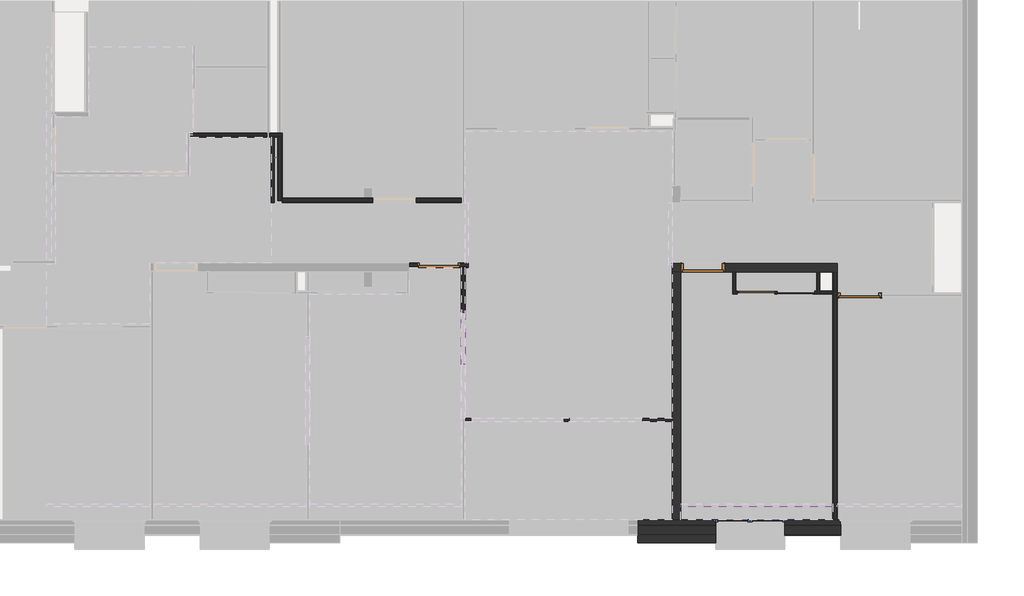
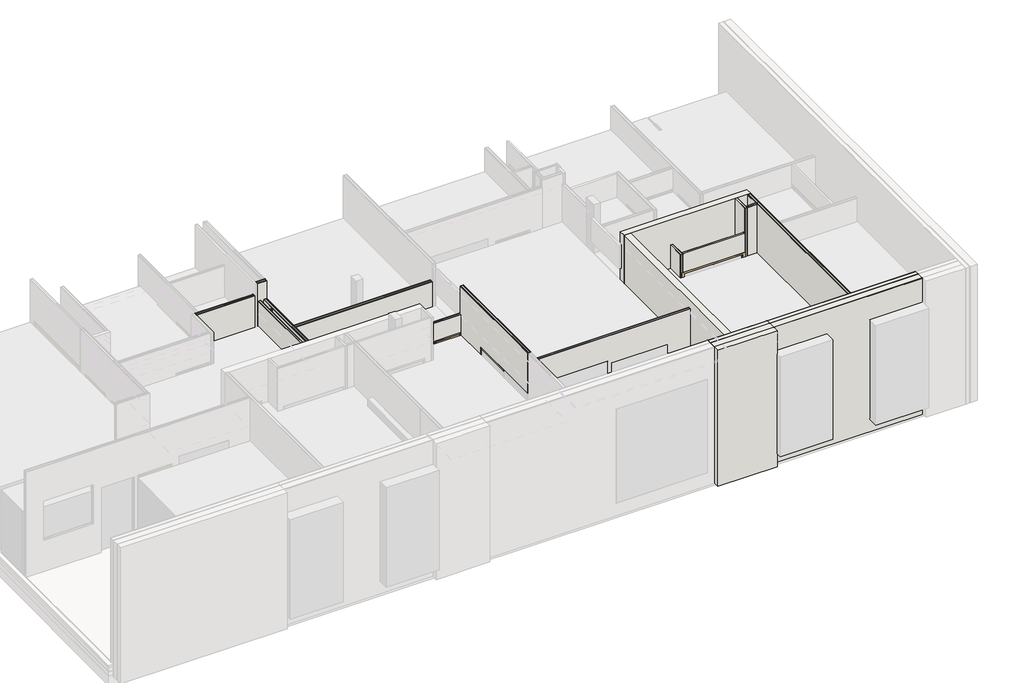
# One storey, part 4 of 8: 20 walls, 4 doors, 4 members, 1 window.
"""IFC4 building model written with IfcOpenShell, lengths in millimetres."""

from ifc_helpers import new_model, si_unit, frame, origin, origin_with_axes, place, context, project, spatial, polyline, outline, extrude, faceted_brep, transform, mapped, element, save
from components import door_440ebcd5, door_922e83f1, door_a5923646, door_b5ea6a65, member_646bbe2c, member_8ddccc91, member_29740ae2, window_4ef66e8a

model = new_model("IFC4")

# Units and contexts
model_context = context("Model", 3, world=origin())
ifc_project = project(units=[si_unit("LENGTHUNIT", "METRE", prefix="MILLI")], contexts=[model_context])

# Site, building, storey
site = spatial("IfcSite", under=ifc_project)
building = spatial("IfcBuilding", under=site)
storey = spatial("IfcBuildingStorey", under=building, Name="0 Mairie RDC 0.00", Elevation=0.0)

# Doors
placement = place(None, origin())
door_shape = door_440ebcd5(model_context)
element("IfcDoor", 1, ObjectType="Portes - Int. Simple - PP (0.89m x 2.04m)", at=placement, inside=storey, context=model_context, shape_type="MappedRepresentation", body=[
    mapped(door_shape, transform((-4782.496702, -8238.2685444, 0.0), x_axis=(1.0, 0.0, 0.0), y_axis=(0.0, 1.0, 0.0), z_axis=(0.0, 0.0, 1.0))),
])
door_2_shape = door_922e83f1(model_context)
element("IfcDoor", 2, ObjectType="Portes - Int. Simple - PP (0.89m x 2.04m) (1)", at=placement, inside=storey, context=model_context, shape_type="MappedRepresentation", body=[
    mapped(door_2_shape, transform((-1161.3922233, -8831.1038426, 0.0), x_axis=(1.0, 0.0, 0.0), y_axis=(0.0, 1.0, 0.0), z_axis=(0.0, 0.0, 1.0))),
])
door_3_shape = door_a5923646(model_context)
element("IfcDoor", 3, ObjectType="Portes - Int. Simple - PP (0.89m x 2.04m) (2)", at=placement, inside=storey, context=model_context, shape_type="MappedRepresentation", body=[
    mapped(door_3_shape, transform((-10819.6455383, -8132.7867091, 0.0), x_axis=(1.0, 0.0, 0.0), y_axis=(0.0, 1.0, 0.0), z_axis=(0.0, 0.0, 1.0))),
])
door_4_shape = door_b5ea6a65(model_context)
element("IfcDoor", 4, ObjectType="Portes - Placard coulissante - 2 panneaux - Placard coulissante - 2 panneaux 1.80", at=placement, inside=storey, context=model_context, shape_type="MappedRepresentation", body=[
    mapped(door_4_shape, transform((-3421.0406291, -8751.7570094, 0.0), x_axis=(1.0, 0.0, 0.0), y_axis=(0.0, 1.0, 0.0), z_axis=(0.0, 0.0, 1.0))),
])

# Members
member_shape = member_646bbe2c(model_context)
element("IfcMember", 5, ObjectType="Meneaux de murs-rideaux - Meneau rectangulaire - 10 x 25mm (2)", at=placement, inside=storey, context=model_context, shape_type="MappedRepresentation", body=[
    mapped(member_shape, transform((-9754.6455383, -9128.5833837, 1125.0), x_axis=(0.0, 1.0, 0.0), y_axis=(1.0, 0.0, 0.0), z_axis=(0.0, 0.0, -1.0))),
])
element("IfcMember", 6, ObjectType="Meneaux de murs-rideaux - Meneau rectangulaire - 10 x 25mm (3)", at=placement, inside=storey, context=model_context, shape_type="MappedRepresentation", body=[
    mapped(member_shape, transform((-9754.6455383, -9128.5833837, 50.0), x_axis=(0.0, 1.0, 0.0), y_axis=(1.0, 0.0, 0.0), z_axis=(0.0, 0.0, -1.0))),
])
member_2_shape = member_8ddccc91(model_context)
element("IfcMember", 7, ObjectType="Meneaux de murs-rideaux - Meneau rectangulaire - 10 x 25mm (6)", at=placement, inside=storey, context=model_context, shape_type="MappedRepresentation", body=[
    mapped(member_2_shape, transform((-9754.6455383, -9178.5833837, 1125.0), x_axis=(0.0, 0.0, 1.0), y_axis=(1.0, 0.0, 0.0), z_axis=(0.0, 1.0, 0.0))),
])
member_3_shape = member_29740ae2(model_context)
element("IfcMember", 8, ObjectType="Meneaux de murs-rideaux - Meneau rectangulaire - 10 x 25mm (10)", at=placement, inside=storey, context=model_context, shape_type="MappedRepresentation", body=[
    mapped(member_3_shape, transform((-9754.6455383, -9128.5833837, 2250.0), x_axis=(0.0, 0.0, 1.0), y_axis=(1.0, 0.0, 0.0), z_axis=(0.0, 1.0, 0.0))),
])

# Walls
element("IfcWall", 9, ObjectType="Murs - Mur de base - A cloison placostil 98 sèche", at=placement, inside=storey, context=model_context, shape_type="SweptSolid", body=[
    extrude(outline(polyline([(2800.0, -9808.4471465), (2800.0, -13946.7760862), (0.0, -13946.7760862), (0.0, -11848.5461708), (2075.0, -11848.5461708), (2075.0, -10848.5461708), (0.0, -10848.5461708), (0.0, -9808.4471465), (2800.0, -9808.4471465)])), frame((0.0, -6632.5340392, 0.0), z_axis=(0.0, 1.0, 0.0), x_axis=(0.0, 0.0, 1.0)), (0.0, 0.0, 1.0), 12.5),
    extrude(outline(polyline([(2800.0, -9808.4471465), (2800.0, -13946.7760862), (0.0, -13946.7760862), (0.0, -11848.5461708), (2075.0, -11848.5461708), (2075.0, -10848.5461708), (0.0, -10848.5461708), (0.0, -9808.4471465), (2800.0, -9808.4471465)])), frame((0.0, -6620.0340392, 0.0), z_axis=(0.0, 1.0, 0.0), x_axis=(0.0, 0.0, 1.0)), (0.0, 0.0, 1.0), 12.5),
    extrude(outline(polyline([(2800.0, -9808.4471465), (2800.0, -13946.7760862), (0.0, -13946.7760862), (0.0, -11848.5461708), (2075.0, -11848.5461708), (2075.0, -10848.5461708), (0.0, -10848.5461708), (0.0, -9808.4471465), (2800.0, -9808.4471465)])), frame((0.0, -6607.5340392, 0.0), z_axis=(0.0, 1.0, 0.0), x_axis=(0.0, 0.0, 1.0)), (0.0, 0.0, 1.0), 50.0),
    extrude(outline(polyline([(2800.0, -9808.4471465), (2800.0, -13946.7760862), (0.0, -13946.7760862), (0.0, -11848.5461708), (2075.0, -11848.5461708), (2075.0, -10848.5461708), (0.0, -10848.5461708), (0.0, -9808.4471465), (2800.0, -9808.4471465)])), frame((0.0, -6557.5340392, 0.0), z_axis=(0.0, 1.0, 0.0), x_axis=(0.0, 0.0, 1.0)), (0.0, 0.0, 1.0), 12.5),
    extrude(outline(polyline([(2800.0, -9808.4471465), (2800.0, -13946.7760862), (0.0, -13946.7760862), (0.0, -11848.5461708), (2075.0, -11848.5461708), (2075.0, -10848.5461708), (0.0, -10848.5461708), (0.0, -9808.4471465), (2800.0, -9808.4471465)])), frame((0.0, -6545.0340392, 0.0), z_axis=(0.0, 1.0, 0.0), x_axis=(0.0, 0.0, 1.0)), (0.0, 0.0, 1.0), 12.5),
])
element("IfcWall", 10, ObjectType="Murs - Mur de base - A cloison placostil 98 sèche", at=placement, inside=storey, context=model_context, shape_type="SweptSolid", body=[
    extrude(outline(polyline([(-1206.3922233, -13978.5662223), (-1206.3922233, -8681.7570094), (-1193.8922233, -8681.7570094), (-1193.8922233, -13978.5662223), (-1206.3922233, -13978.5662223)])), origin_with_axes(), (0.0, 0.0, 1.0), 3550.0),
    extrude(outline(polyline([(-1193.8922233, -13978.5662223), (-1193.8922233, -8681.7570094), (-1181.3922233, -8681.7570094), (-1181.3922233, -13978.5662223), (-1193.8922233, -13978.5662223)])), origin_with_axes(), (0.0, 0.0, 1.0), 3550.0),
    extrude(outline(polyline([(-1181.3922233, -13978.5662223), (-1181.3922233, -8681.7570094), (-1131.3922233, -8681.7570094), (-1131.3922233, -13978.5662223), (-1181.3922233, -13978.5662223)])), origin_with_axes(), (0.0, 0.0, 1.0), 3550.0),
    extrude(outline(polyline([(-1131.3922233, -13978.5662223), (-1131.3922233, -8681.7570094), (-1118.8922233, -8681.7570094), (-1118.8922233, -13978.5662223), (-1131.3922233, -13978.5662223)])), origin_with_axes(), (0.0, 0.0, 1.0), 3550.0),
    extrude(outline(polyline([(-1118.8922233, -13978.5662223), (-1118.8922233, -8681.7570094), (-1106.3922233, -8681.7570094), (-1106.3922233, -13978.5662223), (-1118.8922233, -13978.5662223)])), origin_with_axes(), (0.0, 0.0, 1.0), 3550.0),
])
element("IfcWall", 11, ObjectType="Murs - Mur de base - A cloison placostil 72 sèche", at=placement, inside=storey, context=model_context, shape_type="SweptSolid", body=[
    extrude(outline(polyline([(-3526.0406291, -8751.7570094), (-3526.0406291, -8238.2685444), (-3516.0406291, -8238.2685444), (-3516.0406291, -8751.7570094), (-3526.0406291, -8751.7570094)])), origin_with_axes(), (0.0, 0.0, 1.0), 2750.0),
    extrude(outline(polyline([(-3516.0406291, -8751.7570094), (-3516.0406291, -8238.2685444), (-3466.0406291, -8238.2685444), (-3466.0406291, -8751.7570094), (-3516.0406291, -8751.7570094)])), origin_with_axes(), (0.0, 0.0, 1.0), 2750.0),
    extrude(outline(polyline([(-3466.0406291, -8751.7570094), (-3466.0406291, -8238.2685444), (-3456.0406291, -8238.2685444), (-3456.0406291, -8751.7570094), (-3466.0406291, -8751.7570094)])), origin_with_axes(), (0.0, 0.0, 1.0), 2750.0),
])
element("IfcWall", 12, ObjectType="Murs - Mur de base - A cloison placostil 72 sèche", at=placement, inside=storey, context=model_context, shape_type="SweptSolid", body=[
    extrude(outline(polyline([(2750.0, -1576.0769125), (2750.0, -3456.0406291), (0.0, -3456.0406291), (0.0, -3421.0406291), (2100.0, -3421.0406291), (2100.0, -1621.0406291), (0.0, -1621.0406291), (0.0, -1576.0769125), (2750.0, -1576.0769125)])), frame((0.0, -8751.7570094, 0.0), z_axis=(0.0, 1.0, 0.0), x_axis=(0.0, 0.0, 1.0)), (0.0, 0.0, 1.0), 10.0),
    extrude(outline(polyline([(2750.0, -1576.0769125), (2750.0, -3456.0406291), (0.0, -3456.0406291), (0.0, -3421.0406291), (2100.0, -3421.0406291), (2100.0, -1621.0406291), (0.0, -1621.0406291), (0.0, -1576.0769125), (2750.0, -1576.0769125)])), frame((0.0, -8741.7570094, 0.0), z_axis=(0.0, 1.0, 0.0), x_axis=(0.0, 0.0, 1.0)), (0.0, 0.0, 1.0), 50.0),
    extrude(outline(polyline([(2750.0, -1576.0769125), (2750.0, -3456.0406291), (0.0, -3456.0406291), (0.0, -3421.0406291), (2100.0, -3421.0406291), (2100.0, -1621.0406291), (0.0, -1621.0406291), (0.0, -1576.0769125), (2750.0, -1576.0769125)])), frame((0.0, -8691.7570094, 0.0), z_axis=(0.0, 1.0, 0.0), x_axis=(0.0, 0.0, 1.0)), (0.0, 0.0, 1.0), 10.0),
])
element("IfcWall", 13, ObjectType="Murs - Mur de base - A cloison placostil 72 sèche", at=placement, inside=storey, context=model_context, shape_type="SweptSolid", body=[
    extrude(outline(polyline([(-1576.0769125, -8751.7570094), (-1576.0769125, -8238.2685444), (-1566.0769125, -8238.2685444), (-1566.0769125, -8751.7570094), (-1576.0769125, -8751.7570094)])), origin_with_axes(), (0.0, 0.0, 1.0), 3550.0),
    extrude(outline(polyline([(-1566.0769125, -8751.7570094), (-1566.0769125, -8238.2685444), (-1516.0769125, -8238.2685444), (-1516.0769125, -8751.7570094), (-1566.0769125, -8751.7570094)])), origin_with_axes(), (0.0, 0.0, 1.0), 3550.0),
    extrude(outline(polyline([(-1516.0769125, -8751.7570094), (-1516.0769125, -8238.2685444), (-1506.0769125, -8238.2685444), (-1506.0769125, -8751.7570094), (-1516.0769125, -8751.7570094)])), origin_with_axes(), (0.0, 0.0, 1.0), 3550.0),
])
element("IfcWall", 14, ObjectType="Murs - Mur de base - A cloison placostil 72 sèche", at=placement, inside=storey, context=model_context, shape_type="SweptSolid", body=[
    extrude(outline(polyline([(3300.0, -4927.496702), (3300.0, -9704.6455383), (0.0, -9704.6455383), (0.0, -9584.6455383), (2500.0, -9584.6455383), (2500.0, -7424.6455383), (0.0, -7424.6455383), (0.0, -7305.3883155), (2400.0, -7305.3883155), (2400.0, -5605.3883155), (0.0, -5605.3883155), (0.0, -4927.496702), (3300.0, -4927.496702)])), frame((0.0, -11698.5833837, 0.0), z_axis=(0.0, 1.0, 0.0), x_axis=(0.0, 0.0, 1.0)), (0.0, 0.0, 1.0), 10.0),
    extrude(outline(polyline([(3300.0, -4927.496702), (3300.0, -9704.6455383), (0.0, -9704.6455383), (0.0, -9584.6455383), (2500.0, -9584.6455383), (2500.0, -7424.6455383), (0.0, -7424.6455383), (0.0, -7305.3883155), (2400.0, -7305.3883155), (2400.0, -5605.3883155), (0.0, -5605.3883155), (0.0, -4927.496702), (3300.0, -4927.496702)])), frame((0.0, -11688.5833837, 0.0), z_axis=(0.0, 1.0, 0.0), x_axis=(0.0, 0.0, 1.0)), (0.0, 0.0, 1.0), 50.0),
    extrude(outline(polyline([(3300.0, -4927.496702), (3300.0, -9704.6455383), (0.0, -9704.6455383), (0.0, -9584.6455383), (2500.0, -9584.6455383), (2500.0, -7424.6455383), (0.0, -7424.6455383), (0.0, -7305.3883155), (2400.0, -7305.3883155), (2400.0, -5605.3883155), (0.0, -5605.3883155), (0.0, -4927.496702), (3300.0, -4927.496702)])), frame((0.0, -11638.5833837, 0.0), z_axis=(0.0, 1.0, 0.0), x_axis=(0.0, 0.0, 1.0)), (0.0, 0.0, 1.0), 10.0),
])
element("IfcWall", 15, ObjectType="Murs - Mur de base - A cloison placostil 98 sèche", at=placement, inside=storey, context=model_context, shape_type="SweptSolid", body=[
    extrude(outline(polyline([(2650.0, -9638.4471465), (2650.0, -11003.1086334), (0.0, -11003.1086334), (0.0, -10819.6455383), (2075.0, -10819.6455383), (2075.0, -9819.6455383), (0.0, -9819.6455383), (0.0, -9638.4471465), (2650.0, -9638.4471465)])), frame((0.0, -8132.7867091, 0.0), z_axis=(0.0, 1.0, 0.0), x_axis=(0.0, 0.0, 1.0)), (0.0, 0.0, 1.0), 12.5),
    extrude(outline(polyline([(2650.0, -9638.4471465), (2650.0, -11003.1086334), (0.0, -11003.1086334), (0.0, -10819.6455383), (2075.0, -10819.6455383), (2075.0, -9819.6455383), (0.0, -9819.6455383), (0.0, -9638.4471465), (2650.0, -9638.4471465)])), frame((0.0, -8120.2867091, 0.0), z_axis=(0.0, 1.0, 0.0), x_axis=(0.0, 0.0, 1.0)), (0.0, 0.0, 1.0), 12.5),
    extrude(outline(polyline([(2650.0, -9638.4471465), (2650.0, -11003.1086334), (0.0, -11003.1086334), (0.0, -10819.6455383), (2075.0, -10819.6455383), (2075.0, -9819.6455383), (0.0, -9819.6455383), (0.0, -9638.4471465), (2650.0, -9638.4471465)])), frame((0.0, -8107.7867091, 0.0), z_axis=(0.0, 1.0, 0.0), x_axis=(0.0, 0.0, 1.0)), (0.0, 0.0, 1.0), 50.0),
    extrude(outline(polyline([(2650.0, -9638.4471465), (2650.0, -11003.1086334), (0.0, -11003.1086334), (0.0, -10819.6455383), (2075.0, -10819.6455383), (2075.0, -9819.6455383), (0.0, -9819.6455383), (0.0, -9638.4471465), (2650.0, -9638.4471465)])), frame((0.0, -8057.7867091, 0.0), z_axis=(0.0, 1.0, 0.0), x_axis=(0.0, 0.0, 1.0)), (0.0, 0.0, 1.0), 12.5),
    extrude(outline(polyline([(2650.0, -9638.4471465), (2650.0, -11003.1086334), (0.0, -11003.1086334), (0.0, -10819.6455383), (2075.0, -10819.6455383), (2075.0, -9819.6455383), (0.0, -9819.6455383), (0.0, -9638.4471465), (2650.0, -9638.4471465)])), frame((0.0, -8045.2867091, 0.0), z_axis=(0.0, 1.0, 0.0), x_axis=(0.0, 0.0, 1.0)), (0.0, 0.0, 1.0), 12.5),
])
element("IfcWall", 16, ObjectType="Murs - Mur de base - A Ext. Voile BA 20", at=placement, inside=storey, context=model_context, shape_type="SweptSolid", body=[
    extrude(outline(polyline([(3550.0, -1102.2052719), (3550.0, -4927.496702), (-180.0, -4927.496702), (-180.0, -1102.2052719), (3550.0, -1102.2052719)]), holes=[polyline([(2075.0, -3712.496702), (0.0, -3712.496702), (0.0, -4712.496702), (2075.0, -4712.496702), (2075.0, -3712.496702)])]), frame((0.0, -8238.2685444, 0.0), z_axis=(0.0, 1.0, 0.0), x_axis=(0.0, 0.0, 1.0)), (0.0, 0.0, 1.0), 200.0),
])
element("IfcWall", 17, ObjectType="Murs - Mur de base - A Ext. Voile BA 20", at=placement, inside=storey, context=model_context, shape_type="SweptSolid", body=[
    extrude(outline(polyline([(-4727.496702, -13978.5662223), (-4927.496702, -13978.5662223), (-4927.496702, -8238.2685444), (-4727.496702, -8238.2685444), (-4727.496702, -13978.5662223)])), frame((0.0, 0.0, -180.0), z_axis=(0.0, 0.0, 1.0), x_axis=(1.0, 0.0, 0.0)), (0.0, 0.0, 1.0), 3730.0),
])
element("IfcWall", 18, ObjectType="Murs - Mur de base - A Enduit 2 + Béton 20 + vide 1 +  Doublage 13", at=placement, inside=storey, context=model_context, shape_type="Brep", body=[
    faceted_brep([(-3920.1625689, -14338.5662223, 3950.0), (577.5549073, -14338.5662223, 3950.0), (577.5549073, -14318.5662223, 3950.0), (-3920.1625689, -14318.5662223, 3950.0), (-3920.1625689, -14338.5662223, -400.0), (-3920.1625689, -14318.5662223, -400.0), (577.5549073, -14318.5662223, -400.0), (577.5549073, -14338.5662223, -400.0), (-3920.1625689, -14338.5662223, 3185.0), (-2320.1625689, -14338.5662223, 3185.0), (-2320.1625689, -14338.5662223, 5.5708141), (-3920.1625689, -14338.5662223, 5.5708141), (577.5549073, -14338.5662223, 5.5708141), (-1022.3843993, -14338.5662223, 5.5708141), (-1022.3843993, -14338.5662223, 3185.0), (577.5549073, -14338.5662223, 3185.0), (577.5549073, -14318.5662223, 3185.0), (577.5549073, -14318.5662223, 7.6728988), (-1022.3843993, -14318.5662223, 3185.0), (-1022.3843993, -14318.5662223, 7.6728988), (-3920.1625689, -14318.5662223, 7.6728988), (-2320.1625689, -14318.5662223, 7.6728988), (-2320.1625689, -14318.5662223, 3185.0), (-3920.1625689, -14318.5662223, 3185.0)], [[[0, 1, 2, 3]], [[4, 5, 6, 7]], [[1, 0, 8, 9, 10, 11, 4, 7, 12, 13, 14, 15]], [[2, 1, 15, 16]], [[7, 6, 17, 12]], [[3, 2, 16, 18, 19, 17, 6, 5, 20, 21, 22, 23]], [[0, 3, 23, 8]], [[5, 4, 11, 20]], [[10, 9, 22, 21]], [[9, 8, 23, 22]], [[11, 10, 21, 20]], [[14, 18, 16, 15]], [[19, 13, 12, 17]], [[18, 14, 13, 19]]]),
    faceted_brep([(-3920.1625689, -14318.5662223, 3950.0), (577.5549073, -14318.5662223, 3950.0), (577.5549073, -14118.5662223, 3950.0), (-3920.1625689, -14118.5662223, 3950.0), (-3920.1625689, -14318.5662223, -400.0), (-3920.1625689, -14118.5662223, -400.0), (577.5549073, -14118.5662223, -400.0), (577.5549073, -14318.5662223, -400.0), (-3920.1625689, -14318.5662223, 3185.0), (-2320.1625689, -14318.5662223, 3185.0), (-2320.1625689, -14318.5662223, 7.6728988), (-3920.1625689, -14318.5662223, 7.6728988), (577.5549073, -14318.5662223, 7.6728988), (-1022.3843993, -14318.5662223, 7.6728988), (-1022.3843993, -14318.5662223, 3185.0), (577.5549073, -14318.5662223, 3185.0), (577.5549073, -14118.5662223, 3185.0), (577.5549073, -14118.5662223, 28.6937459), (-1022.3843993, -14118.5662223, 3185.0), (-1022.3843993, -14118.5662223, 28.6937459), (-3920.1625689, -14118.5662223, 28.6937459), (-2320.1625689, -14118.5662223, 28.6937459), (-2320.1625689, -14118.5662223, 3185.0), (-3920.1625689, -14118.5662223, 3185.0)], [[[0, 1, 2, 3]], [[4, 5, 6, 7]], [[1, 0, 8, 9, 10, 11, 4, 7, 12, 13, 14, 15]], [[2, 1, 15, 16]], [[7, 6, 17, 12]], [[3, 2, 16, 18, 19, 17, 6, 5, 20, 21, 22, 23]], [[0, 3, 23, 8]], [[5, 4, 11, 20]], [[10, 9, 22, 21]], [[9, 8, 23, 22]], [[11, 10, 21, 20]], [[14, 18, 16, 15]], [[19, 13, 12, 17]], [[18, 14, 13, 19]]]),
    faceted_brep([(-3920.1625689, -14118.5662223, 3950.0), (577.5549073, -14118.5662223, 3950.0), (577.5549073, -14108.5662223, 3950.0), (-3920.1625689, -14108.5662223, 3950.0), (-3920.1625689, -14118.5662223, -400.0), (-3920.1625689, -14108.5662223, -400.0), (577.5549073, -14108.5662223, -400.0), (577.5549073, -14118.5662223, -400.0), (-3920.1625689, -14118.5662223, 3185.0), (-2320.1625689, -14118.5662223, 3185.0), (-2320.1625689, -14118.5662223, 28.6937459), (-3920.1625689, -14118.5662223, 28.6937459), (577.5549073, -14118.5662223, 28.6937459), (-1022.3843993, -14118.5662223, 28.6937459), (-1022.3843993, -14118.5662223, 3185.0), (577.5549073, -14118.5662223, 3185.0), (577.5549073, -14108.5662223, 3185.0), (577.5549073, -14108.5662223, 29.7447882), (-1022.3843993, -14108.5662223, 3185.0), (-1022.3843993, -14108.5662223, 29.7447882), (-3920.1625689, -14108.5662223, 29.7447882), (-2320.1625689, -14108.5662223, 29.7447882), (-2320.1625689, -14108.5662223, 3185.0), (-3920.1625689, -14108.5662223, 3185.0)], [[[0, 1, 2, 3]], [[4, 5, 6, 7]], [[1, 0, 8, 9, 10, 11, 4, 7, 12, 13, 14, 15]], [[2, 1, 15, 16]], [[7, 6, 17, 12]], [[3, 2, 16, 18, 19, 17, 6, 5, 20, 21, 22, 23]], [[0, 3, 23, 8]], [[5, 4, 11, 20]], [[10, 9, 22, 21]], [[9, 8, 23, 22]], [[11, 10, 21, 20]], [[14, 18, 16, 15]], [[19, 13, 12, 17]], [[18, 14, 13, 19]]]),
    faceted_brep([(-3920.1625689, -14108.5662223, 3950.0), (577.5549073, -14108.5662223, 3950.0), (577.5549073, -13988.5662223, 3950.0), (-3920.1625689, -13988.5662223, 3950.0), (-3920.1625689, -14108.5662223, -400.0), (-3920.1625689, -13988.5662223, -400.0), (577.5549073, -13988.5662223, -400.0), (577.5549073, -14108.5662223, -400.0), (-3920.1625689, -14108.5662223, 3185.0), (-2320.1625689, -14108.5662223, 3185.0), (-2320.1625689, -14108.5662223, 29.7447882), (-3920.1625689, -14108.5662223, 29.7447882), (577.5549073, -14108.5662223, 29.7447882), (-1022.1343993, -14108.5662223, 29.7447882), (-1022.1343993, -14108.5662223, 3185.0), (577.5549073, -14108.5662223, 3185.0), (577.5549073, -14078.5662223, 3185.0), (577.5549073, -14078.5662223, 3195.0), (577.5549073, -14028.5662223, 3195.0), (577.5549073, -14028.5662223, 3235.0), (577.5549073, -13988.5662223, 3235.0), (577.5549073, -13988.5662223, 35.0), (577.5549073, -14058.5662223, 35.0), (-1072.1343993, -13988.5662223, 3235.0), (-1072.1343993, -13988.5662223, 35.0), (-3920.1625689, -13988.5662223, 35.0), (-2270.1625689, -13988.5662223, 35.0), (-2270.1625689, -13988.5662223, 3235.0), (-3920.1625689, -13988.5662223, 3235.0), (-3920.1625689, -14028.5662223, 3235.0), (-3920.1625689, -14028.5662223, 3195.0), (-3920.1625689, -14078.5662223, 3195.0), (-3920.1625689, -14078.5662223, 3185.0), (-3920.1625689, -14058.5662223, 35.0), (-2320.1625689, -14078.5662223, 3185.0), (-2320.1625689, -14078.5662223, 35.0), (-2320.1625689, -14058.5662223, 35.0), (-2310.1625689, -14078.5662223, 35.0), (-2310.1625689, -14028.5662223, 35.0), (-2270.1625689, -14028.5662223, 35.0), (-2270.1625689, -14028.5662223, 3235.0), (-2310.1625689, -14028.5662223, 3195.0), (-2310.1625689, -14078.5662223, 3195.0), (-1022.1343993, -14078.5662223, 35.0), (-1022.1343993, -14058.5662223, 35.0), (-1072.1343993, -14028.5662223, 35.0), (-1032.1343993, -14028.5662223, 35.0), (-1032.1343993, -14078.5662223, 35.0), (-1022.1343993, -14078.5662223, 3185.0), (-1072.1343993, -14028.5662223, 3235.0), (-1032.1343993, -14028.5662223, 3195.0), (-1032.1343993, -14078.5662223, 3195.0)], [[[0, 1, 2, 3]], [[4, 5, 6, 7]], [[1, 0, 8, 9, 10, 11, 4, 7, 12, 13, 14, 15]], [[2, 1, 15, 16, 17, 18, 19, 20]], [[7, 6, 21, 22, 12]], [[3, 2, 20, 23, 24, 21, 6, 5, 25, 26, 27, 28]], [[0, 3, 28, 29, 30, 31, 32, 8]], [[5, 4, 11, 33, 25]], [[10, 9, 34, 35, 36]], [[26, 25, 33, 36, 35, 37, 38, 39]], [[9, 8, 32, 34]], [[11, 10, 36, 33]], [[27, 26, 39, 40]], [[30, 29, 40, 39, 38, 41]], [[38, 37, 42, 41]], [[32, 31, 42, 37, 35, 34]], [[28, 27, 40, 29]], [[31, 30, 41, 42]], [[43, 44, 22, 21, 24, 45, 46, 47]], [[14, 48, 16, 15]], [[22, 44, 13, 12]], [[46, 45, 49, 19, 18, 50]], [[43, 47, 51, 17, 16, 48]], [[19, 49, 23, 20]], [[51, 50, 18, 17]], [[49, 45, 24, 23]], [[47, 46, 50, 51]], [[44, 43, 48, 14, 13]]]),
    faceted_brep([(-3920.1625689, -13988.5662223, 3950.0), (577.5549073, -13988.5662223, 3950.0), (577.5549073, -13978.5662223, 3950.0), (-3920.1625689, -13978.5662223, 3950.0), (-3920.1625689, -13988.5662223, -400.0), (-3920.1625689, -13978.5662223, -400.0), (577.5549073, -13978.5662223, -400.0), (577.5549073, -13988.5662223, -400.0), (-3920.1625689, -13988.5662223, 3235.0), (-2270.1625689, -13988.5662223, 3235.0), (-2270.1625689, -13988.5662223, 35.0), (-3920.1625689, -13988.5662223, 35.0), (577.5549073, -13988.5662223, 35.0), (-1072.3843993, -13988.5662223, 35.0), (-1072.3843993, -13988.5662223, 3235.0), (577.5549073, -13988.5662223, 3235.0), (577.5549073, -13978.5662223, 3235.0), (577.5549073, -13978.5662223, 35.0), (-1072.3843993, -13978.5662223, 3235.0), (-1072.3843993, -13978.5662223, 35.0), (-1022.3843993, -13978.5662223, 35.0), (-3920.1625689, -13978.5662223, 35.0), (-2320.1625689, -13978.5662223, 35.0), (-2270.1625689, -13978.5662223, 35.0), (-2270.1625689, -13978.5662223, 3235.0), (-3920.1625689, -13978.5662223, 3235.0)], [[[0, 1, 2, 3]], [[4, 5, 6, 7]], [[1, 0, 8, 9, 10, 11, 4, 7, 12, 13, 14, 15]], [[2, 1, 15, 16]], [[7, 6, 17, 12]], [[3, 2, 16, 18, 19, 20, 17, 6, 5, 21, 22, 23, 24, 25]], [[0, 3, 25, 8]], [[5, 4, 11, 21]], [[11, 10, 23, 22, 21]], [[10, 9, 24, 23]], [[9, 8, 25, 24]], [[19, 13, 12, 17, 20]], [[14, 18, 16, 15]], [[13, 19, 18, 14]]]),
])
element("IfcWall", 19, ObjectType="Murs - Mur de base - A Parement pierre 19 + Béton 20 + vide 1 +   Doublage 14", at=placement, inside=storey, context=model_context, shape_type="SolidModel", body=[
    faceted_brep([(-5718.4606208, -14508.5662223, 3950.0), (-3920.1625689, -14508.5662223, 3950.0), (-3920.1625689, -14318.5662223, 3950.0), (-5718.4606208, -14318.5662223, 3950.0), (-5718.4606208, -14508.5662223, -400.0), (-5718.4606208, -14318.5662223, -400.0), (-3920.1625689, -14318.5662223, -400.0), (-3920.1625689, -14508.5662223, -400.0), (-3920.1625689, -14508.5662223, 0.0), (-3920.1625689, -14508.5662223, 3185.0), (-3920.1625689, -14318.5662223, 7.6728988), (-3920.1625689, -14318.5662223, 3185.0)], [[[0, 1, 2, 3]], [[4, 5, 6, 7]], [[1, 0, 4, 7, 8, 9]], [[2, 1, 9, 8, 7, 6, 10, 11]], [[3, 2, 11, 10, 6, 5]], [[0, 3, 5, 4]]]),
    faceted_brep([(-5718.4606208, -14318.5662223, 3950.0), (-3920.1625689, -14318.5662223, 3950.0), (-3920.1625689, -14118.5662223, 3950.0), (-5718.4606208, -14118.5662223, 3950.0), (-5718.4606208, -14318.5662223, -400.0), (-5718.4606208, -14118.5662223, -400.0), (-3920.1625689, -14118.5662223, -400.0), (-3920.1625689, -14318.5662223, -400.0), (-3920.1625689, -14318.5662223, 7.6728988), (-3920.1625689, -14318.5662223, 3185.0), (-3920.1625689, -14118.5662223, 28.6937459), (-3920.1625689, -14118.5662223, 3185.0)], [[[0, 1, 2, 3]], [[4, 5, 6, 7]], [[1, 0, 4, 7, 8, 9]], [[2, 1, 9, 8, 7, 6, 10, 11]], [[3, 2, 11, 10, 6, 5]], [[0, 3, 5, 4]]]),
    faceted_brep([(-5718.4606208, -14118.5662223, 3950.0), (-3920.1625689, -14118.5662223, 3950.0), (-3920.1625689, -14108.5662223, 3950.0), (-5718.4606208, -14108.5662223, 3950.0), (-5718.4606208, -14118.5662223, -400.0), (-5718.4606208, -14108.5662223, -400.0), (-3920.1625689, -14108.5662223, -400.0), (-3920.1625689, -14118.5662223, -400.0), (-3920.1625689, -14118.5662223, 28.6937459), (-3920.1625689, -14118.5662223, 3185.0), (-3920.1625689, -14108.5662223, 29.7447882), (-3920.1625689, -14108.5662223, 3185.0)], [[[0, 1, 2, 3]], [[4, 5, 6, 7]], [[1, 0, 4, 7, 8, 9]], [[2, 1, 9, 8, 7, 6, 10, 11]], [[3, 2, 11, 10, 6, 5]], [[0, 3, 5, 4]]]),
    faceted_brep([(-5718.4606208, -14108.5662223, 3950.0), (-3920.1625689, -14108.5662223, 3950.0), (-3920.1625689, -13988.5662223, 3950.0), (-5718.4606208, -13988.5662223, 3950.0), (-5718.4606208, -14108.5662223, -400.0), (-5718.4606208, -13988.5662223, -400.0), (-3920.1625689, -13988.5662223, -400.0), (-3920.1625689, -14108.5662223, -400.0), (-3920.1625689, -14108.5662223, 29.7447882), (-3920.1625689, -14108.5662223, 3185.0), (-3920.1625689, -13988.5662223, 35.0), (-3920.1625689, -14058.5662223, 35.0), (-3920.1625689, -14078.5662223, 35.0), (-3920.1625689, -14078.5662223, 3185.0), (-3920.1625689, -14078.5662223, 3195.0), (-3920.1625689, -14028.5662223, 3195.0), (-3920.1625689, -14028.5662223, 3235.0), (-3920.1625689, -13988.5662223, 3235.0), (-3970.1625689, -13988.5662223, 3235.0), (-3970.1625689, -13988.5662223, 35.0), (-3930.1625689, -14078.5662223, 35.0), (-3970.1625689, -14028.5662223, 35.0), (-3930.1625689, -14028.5662223, 35.0), (-3970.1625689, -14028.5662223, 3235.0), (-3930.1625689, -14028.5662223, 3195.0), (-3930.1625689, -14078.5662223, 3195.0)], [[[0, 1, 2, 3]], [[4, 5, 6, 7]], [[1, 0, 4, 7, 8, 9]], [[2, 1, 9, 8, 7, 6, 10, 11, 12, 13, 14, 15, 16, 17]], [[3, 2, 17, 18, 19, 10, 6, 5]], [[0, 3, 5, 4]], [[20, 12, 11, 10, 19, 21, 22]], [[22, 21, 23, 16, 15, 24]], [[12, 20, 25, 14, 13]], [[16, 23, 18, 17]], [[25, 24, 15, 14]], [[23, 21, 19, 18]], [[20, 22, 24, 25]]]),
    extrude(outline(polyline([(3950.0, -3920.1625689), (3950.0, -5718.4606208), (-400.0, -5718.4606208), (-400.0, -3920.1625689), (35.0, -3920.1625689), (35.0, -3970.1625689), (3235.0, -3970.1625689), (3235.0, -3920.1625689), (3950.0, -3920.1625689)])), frame((0.0, -13988.5662223, 0.0), z_axis=(0.0, 1.0, 0.0), x_axis=(0.0, 0.0, 1.0)), (0.0, 0.0, 1.0), 10.0),
])
element("IfcWall", 20, ObjectType="Murs - Mur de base - A cloison placostil 98 sèche", at=placement, inside=storey, context=model_context, shape_type="SweptSolid", body=[
    extrude(outline(polyline([(-11628.5833837, 3540.0), (-8082.7867091, 3540.0), (-8082.7867091, 0.0), (-9128.5833837, 0.0), (-9128.5833837, 2250.0), (-11628.5833837, 2250.0), (-11628.5833837, 3540.0)])), frame((-9804.6455383, 0.0, 0.0), z_axis=(1.0, 0.0, 0.0), x_axis=(0.0, 1.0, 0.0)), (0.0, 0.0, 1.0), 12.5),
    extrude(outline(polyline([(-11628.5833837, 3540.0), (-8082.7867091, 3540.0), (-8082.7867091, 0.0), (-9128.5833837, 0.0), (-9128.5833837, 2250.0), (-11628.5833837, 2250.0), (-11628.5833837, 3540.0)])), frame((-9792.1455383, 0.0, 0.0), z_axis=(1.0, 0.0, 0.0), x_axis=(0.0, 1.0, 0.0)), (0.0, 0.0, 1.0), 12.5),
    extrude(outline(polyline([(-11628.5833837, 3540.0), (-8082.7867091, 3540.0), (-8082.7867091, 0.0), (-9128.5833837, 0.0), (-9128.5833837, 2250.0), (-11628.5833837, 2250.0), (-11628.5833837, 3540.0)])), frame((-9779.6455383, 0.0, 0.0), z_axis=(1.0, 0.0, 0.0), x_axis=(0.0, 1.0, 0.0)), (0.0, 0.0, 1.0), 50.0),
    extrude(outline(polyline([(-11628.5833837, 3540.0), (-8082.7867091, 3540.0), (-8082.7867091, 0.0), (-9128.5833837, 0.0), (-9128.5833837, 2250.0), (-11628.5833837, 2250.0), (-11628.5833837, 3540.0)])), frame((-9729.6455383, 0.0, 0.0), z_axis=(1.0, 0.0, 0.0), x_axis=(0.0, 1.0, 0.0)), (0.0, 0.0, 1.0), 12.5),
    extrude(outline(polyline([(-11628.5833837, 3540.0), (-8082.7867091, 3540.0), (-8082.7867091, 0.0), (-9128.5833837, 0.0), (-9128.5833837, 2250.0), (-11628.5833837, 2250.0), (-11628.5833837, 3540.0)])), frame((-9717.1455383, 0.0, 0.0), z_axis=(1.0, 0.0, 0.0), x_axis=(0.0, 1.0, 0.0)), (0.0, 0.0, 1.0), 12.5),
])
element("IfcWall", 21, ObjectType="Murs - Mur de base - A cloison placostil 72 sèche", at=placement, inside=storey, context=model_context, shape_type="SweptSolid", body=[
    extrude(outline(polyline([(-1506.0769125, -8751.7570094), (-1506.0769125, -8741.7570094), (-1206.3922233, -8741.7570094), (-1206.3922233, -8751.7570094), (-1506.0769125, -8751.7570094)])), origin_with_axes(), (0.0, 0.0, 1.0), 3550.0),
    extrude(outline(polyline([(-1506.0769125, -8741.7570094), (-1506.0769125, -8691.7570094), (-1206.3922233, -8691.7570094), (-1206.3922233, -8741.7570094), (-1506.0769125, -8741.7570094)])), origin_with_axes(), (0.0, 0.0, 1.0), 3550.0),
    extrude(outline(polyline([(-1506.0769125, -8691.7570094), (-1506.0769125, -8681.7570094), (-1206.3922233, -8681.7570094), (-1206.3922233, -8691.7570094), (-1506.0769125, -8691.7570094)])), origin_with_axes(), (0.0, 0.0, 1.0), 3550.0),
])
element("IfcWall", 22, ObjectType="Murs - Mur de base - A cloison placostil 98 sèche", at=placement, inside=storey, context=model_context, shape_type="SweptSolid", body=[
    extrude(outline(polyline([(-1206.3922233, -8681.7570094), (-1206.3922233, -8238.2685444), (-1193.8922233, -8238.2685444), (-1193.8922233, -8681.7570094), (-1206.3922233, -8681.7570094)])), origin_with_axes(), (0.0, 0.0, 1.0), 3550.0),
    extrude(outline(polyline([(-1193.8922233, -8681.7570094), (-1193.8922233, -8238.2685444), (-1181.3922233, -8238.2685444), (-1181.3922233, -8681.7570094), (-1193.8922233, -8681.7570094)])), origin_with_axes(), (0.0, 0.0, 1.0), 3550.0),
    extrude(outline(polyline([(-1181.3922233, -8681.7570094), (-1181.3922233, -8238.2685444), (-1131.3922233, -8238.2685444), (-1131.3922233, -8681.7570094), (-1181.3922233, -8681.7570094)])), origin_with_axes(), (0.0, 0.0, 1.0), 3550.0),
    extrude(outline(polyline([(-1131.3922233, -8681.7570094), (-1131.3922233, -8238.2685444), (-1118.8922233, -8238.2685444), (-1118.8922233, -8681.7570094), (-1131.3922233, -8681.7570094)])), origin_with_axes(), (0.0, 0.0, 1.0), 3550.0),
    extrude(outline(polyline([(-1118.8922233, -8681.7570094), (-1118.8922233, -8238.2685444), (-1106.3922233, -8238.2685444), (-1106.3922233, -8681.7570094), (-1118.8922233, -8681.7570094)])), origin_with_axes(), (0.0, 0.0, 1.0), 3550.0),
])
element("IfcWall", 23, ObjectType="Murs - Mur de base - A cloison placostil 98 sèche", at=placement, inside=storey, context=model_context, shape_type="SweptSolid", body=[
    extrude(outline(polyline([(-14296.7760862, -5119.9219201), (-16066.6269046, -5119.9219201), (-16066.6269046, -5107.4219201), (-14296.7760862, -5107.4219201), (-14296.7760862, -5119.9219201)])), origin_with_axes(), (0.0, 0.0, 1.0), 3000.0),
    extrude(outline(polyline([(-14296.7760862, -5107.4219201), (-16066.6269046, -5107.4219201), (-16066.6269046, -5094.9219201), (-14296.7760862, -5094.9219201), (-14296.7760862, -5107.4219201)])), origin_with_axes(), (0.0, 0.0, 1.0), 3000.0),
    extrude(outline(polyline([(-14296.7760862, -5094.9219201), (-16066.6269046, -5094.9219201), (-16066.6269046, -5044.9219201), (-14296.7760862, -5044.9219201), (-14296.7760862, -5094.9219201)])), origin_with_axes(), (0.0, 0.0, 1.0), 3000.0),
    extrude(outline(polyline([(-14296.7760862, -5044.9219201), (-16066.6269046, -5044.9219201), (-16066.6269046, -5032.4219201), (-14296.7760862, -5032.4219201), (-14296.7760862, -5044.9219201)])), origin_with_axes(), (0.0, 0.0, 1.0), 3000.0),
    extrude(outline(polyline([(-14296.7760862, -5032.4219201), (-16066.6269046, -5032.4219201), (-16066.6269046, -5019.9219201), (-14296.7760862, -5019.9219201), (-14296.7760862, -5032.4219201)])), origin_with_axes(), (0.0, 0.0, 1.0), 3000.0),
])
element("IfcWall", 24, ObjectType="Murs - Mur de base - A cloison placostil 72 sèche", at=placement, inside=storey, context=model_context, shape_type="SweptSolid", body=[
    extrude(outline(polyline([(-8032.7867091, 2800.0), (-5119.9219201, 2800.0), (-5119.9219201, 0.0), (-6633.7824715, 0.0), (-6633.7824715, 1320.0), (-8032.7867091, 1320.0), (-8032.7867091, 2800.0)])), frame((-14202.6238573, 0.0, 0.0), z_axis=(1.0, 0.0, 0.0), x_axis=(0.0, 1.0, 0.0)), (0.0, 0.0, 1.0), 10.0),
    extrude(outline(polyline([(-8032.7867091, 2800.0), (-5119.9219201, 2800.0), (-5119.9219201, 0.0), (-6633.7824715, 0.0), (-6633.7824715, 1320.0), (-8032.7867091, 1320.0), (-8032.7867091, 2800.0)])), frame((-14192.6238573, 0.0, 0.0), z_axis=(1.0, 0.0, 0.0), x_axis=(0.0, 1.0, 0.0)), (0.0, 0.0, 1.0), 50.0),
    extrude(outline(polyline([(-8032.7867091, 2800.0), (-5119.9219201, 2800.0), (-5119.9219201, 0.0), (-6633.7824715, 0.0), (-6633.7824715, 1320.0), (-8032.7867091, 1320.0), (-8032.7867091, 2800.0)])), frame((-14142.6238573, 0.0, 0.0), z_axis=(1.0, 0.0, 0.0), x_axis=(0.0, 1.0, 0.0)), (0.0, 0.0, 1.0), 10.0),
])
element("IfcWall", 25, ObjectType="Murs - Mur de base - A cloison placostil 72 sèche", at=placement, inside=storey, context=model_context, shape_type="SweptSolid", body=[
    extrude(outline(polyline([(-14124.6238573, -5594.5340392), (-14124.6238573, -5592.5340392), (-14114.6238573, -5592.5340392), (-14114.6238573, -5594.5340392), (-14124.6238573, -5594.5340392)])), frame((0.0, 0.0, 2120.0), z_axis=(0.0, 0.0, 1.0), x_axis=(1.0, 0.0, 0.0)), (0.0, 0.0, 1.0), 680.0),
    extrude(outline(polyline([(-14114.6238573, -5594.5340392), (-14114.6238573, -5592.5340392), (-14064.6238573, -5592.5340392), (-14064.6238573, -5594.5340392), (-14114.6238573, -5594.5340392)])), frame((0.0, 0.0, 2120.0), z_axis=(0.0, 0.0, 1.0), x_axis=(1.0, 0.0, 0.0)), (0.0, 0.0, 1.0), 680.0),
    extrude(outline(polyline([(-14064.6238573, -5594.5340392), (-14064.6238573, -5592.5340392), (-14054.6238573, -5592.5340392), (-14054.6238573, -5594.5340392), (-14064.6238573, -5594.5340392)])), frame((0.0, 0.0, 2120.0), z_axis=(0.0, 0.0, 1.0), x_axis=(1.0, 0.0, 0.0)), (0.0, 0.0, 1.0), 680.0),
])
element("IfcWall", 26, ObjectType="Murs - Mur de base - A cloison placostil 72 sèche", at=placement, inside=storey, context=model_context, shape_type="SweptSolid", body=[
    extrude(outline(polyline([(-4726.8279653, -13678.5662223), (-4726.8279653, -13668.5662223), (-1206.3922233, -13668.5662223), (-1206.3922233, -13678.5662223), (-4726.8279653, -13678.5662223)])), frame((0.0, 0.0, 2650.0), z_axis=(0.0, 0.0, 1.0), x_axis=(1.0, 0.0, 0.0)), (0.0, 0.0, 1.0), 510.0),
    extrude(outline(polyline([(-4726.8279653, -13668.5662223), (-4726.8279653, -13618.5662223), (-1206.3922233, -13618.5662223), (-1206.3922233, -13668.5662223), (-4726.8279653, -13668.5662223)])), frame((0.0, 0.0, 2650.0), z_axis=(0.0, 0.0, 1.0), x_axis=(1.0, 0.0, 0.0)), (0.0, 0.0, 1.0), 510.0),
    extrude(outline(polyline([(-4726.8279653, -13618.5662223), (-4726.8279653, -13608.5662223), (-1206.3922233, -13608.5662223), (-1206.3922233, -13618.5662223), (-4726.8279653, -13618.5662223)])), frame((0.0, 0.0, 2650.0), z_axis=(0.0, 0.0, 1.0), x_axis=(1.0, 0.0, 0.0)), (0.0, 0.0, 1.0), 510.0),
])
element("IfcWall", 27, ObjectType="Murs - Mur de base - A cloison placostil 98 sèche", at=placement, inside=storey, context=model_context, shape_type="SweptSolid", body=[
    extrude(outline(polyline([(-8032.7867091, 2800.0), (-5119.9219201, 2800.0), (-5119.9219201, 0.0), (-6582.5340392, 0.0), (-6582.5340392, 2120.0), (-8032.7867091, 2120.0), (-8032.7867091, 2800.0)])), frame((-13959.2760862, 0.0, 0.0), z_axis=(1.0, 0.0, 0.0), x_axis=(0.0, 1.0, 0.0)), (0.0, 0.0, 1.0), 12.5),
    extrude(outline(polyline([(-8032.7867091, 2800.0), (-5119.9219201, 2800.0), (-5119.9219201, 0.0), (-6582.5340392, 0.0), (-6582.5340392, 2120.0), (-8032.7867091, 2120.0), (-8032.7867091, 2800.0)])), frame((-13971.7760862, 0.0, 0.0), z_axis=(1.0, 0.0, 0.0), x_axis=(0.0, 1.0, 0.0)), (0.0, 0.0, 1.0), 12.5),
    extrude(outline(polyline([(-8032.7867091, 2800.0), (-5119.9219201, 2800.0), (-5119.9219201, 0.0), (-6582.5340392, 0.0), (-6582.5340392, 2120.0), (-8032.7867091, 2120.0), (-8032.7867091, 2800.0)])), frame((-14021.7760862, 0.0, 0.0), z_axis=(1.0, 0.0, 0.0), x_axis=(0.0, 1.0, 0.0)), (0.0, 0.0, 1.0), 50.0),
    extrude(outline(polyline([(-8032.7867091, 2800.0), (-5119.9219201, 2800.0), (-5119.9219201, 0.0), (-6582.5340392, 0.0), (-6582.5340392, 2120.0), (-8032.7867091, 2120.0), (-8032.7867091, 2800.0)])), frame((-14034.2760862, 0.0, 0.0), z_axis=(1.0, 0.0, 0.0), x_axis=(0.0, 1.0, 0.0)), (0.0, 0.0, 1.0), 12.5),
    extrude(outline(polyline([(-8032.7867091, 2800.0), (-5119.9219201, 2800.0), (-5119.9219201, 0.0), (-6582.5340392, 0.0), (-6582.5340392, 2120.0), (-8032.7867091, 2120.0), (-8032.7867091, 2800.0)])), frame((-14046.7760862, 0.0, 0.0), z_axis=(1.0, 0.0, 0.0), x_axis=(0.0, 1.0, 0.0)), (0.0, 0.0, 1.0), 12.5),
])
element("IfcWall", 28, ObjectType="Murs - Mur de base - A cloison placostil 98 sèche", at=placement, inside=storey, context=model_context, shape_type="SweptSolid", body=[
    extrude(outline(polyline([(-14226.7760862, -5119.9219201), (-14226.7760862, -5107.4219201), (-13946.7760862, -5107.4219201), (-13946.7760862, -5119.9219201), (-14226.7760862, -5119.9219201)])), origin_with_axes(), (0.0, 0.0, 1.0), 3370.0),
    extrude(outline(polyline([(-14226.7760862, -5107.4219201), (-14226.7760862, -5094.9219201), (-13946.7760862, -5094.9219201), (-13946.7760862, -5107.4219201), (-14226.7760862, -5107.4219201)])), origin_with_axes(), (0.0, 0.0, 1.0), 3370.0),
    extrude(outline(polyline([(-14226.7760862, -5094.9219201), (-14226.7760862, -5044.9219201), (-13946.7760862, -5044.9219201), (-13946.7760862, -5094.9219201), (-14226.7760862, -5094.9219201)])), origin_with_axes(), (0.0, 0.0, 1.0), 3370.0),
    extrude(outline(polyline([(-14226.7760862, -5044.9219201), (-14226.7760862, -5032.4219201), (-13946.7760862, -5032.4219201), (-13946.7760862, -5044.9219201), (-14226.7760862, -5044.9219201)])), origin_with_axes(), (0.0, 0.0, 1.0), 3370.0),
    extrude(outline(polyline([(-14226.7760862, -5032.4219201), (-14226.7760862, -5019.9219201), (-13946.7760862, -5019.9219201), (-13946.7760862, -5032.4219201), (-14226.7760862, -5032.4219201)])), origin_with_axes(), (0.0, 0.0, 1.0), 3370.0),
])

# Window
window_shape = window_4ef66e8a(model_context)
element("IfcWindow", 29, ObjectType="Fenêtres - PF 2 Vantaux - Droits - 1.60 x 3.15", at=placement, inside=storey, context=model_context, shape_type="MappedRepresentation", body=[
    mapped(window_shape, transform((-2270.1625689, -13658.5662223, 0.0), x_axis=(-1.0, 0.0, 0.0), y_axis=(0.0, -1.0, 0.0), z_axis=(0.0, 0.0, 1.0))),
])

save(model, "model.ifc")
